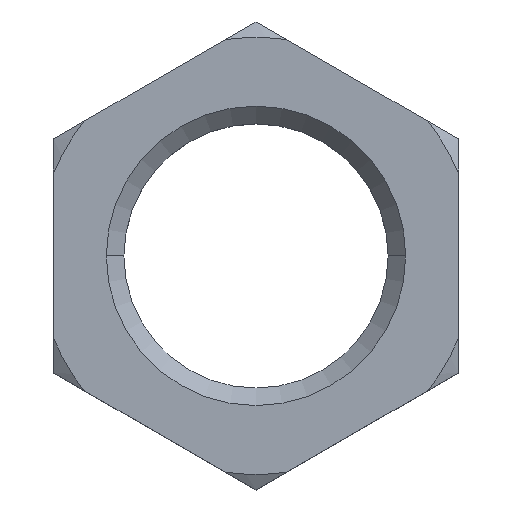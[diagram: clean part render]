
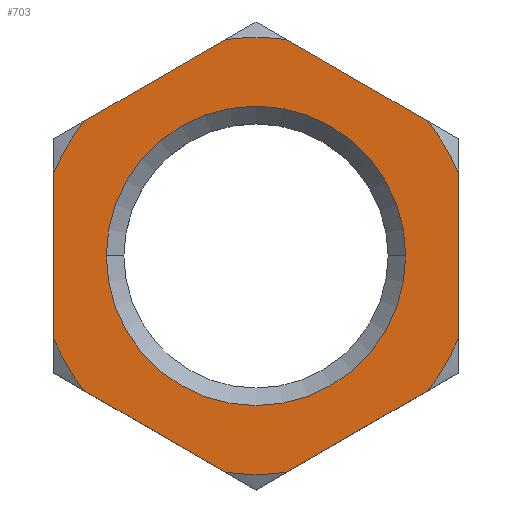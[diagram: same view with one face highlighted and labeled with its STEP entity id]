
A CAD part, top view. The second image highlights one B-rep face of the part: STEP entity #703.
In plain terms, the highlighted planar face has unit normal (0, 0, 1).
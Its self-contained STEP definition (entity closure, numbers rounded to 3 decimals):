
#16 = CARTESIAN_POINT ( 'NONE',  ( -23., 13.279, 6.95 ) ) ;
#19 = CIRCLE ( 'NONE', #454, 24.808 ) ;
#20 = VERTEX_POINT ( 'NONE', #335 ) ;
#30 = CARTESIAN_POINT ( 'NONE',  ( 3.448, 24.567, 6.95 ) ) ;
#31 = ORIENTED_EDGE ( 'NONE', *, *, #513, .F. ) ;
#39 = EDGE_CURVE ( 'NONE', #551, #654, #478, .T. ) ;
#50 = DIRECTION ( 'NONE',  ( -1., 0., 0. ) ) ;
#56 = CARTESIAN_POINT ( 'NONE',  ( 0., 0., 6.95 ) ) ;
#68 = CARTESIAN_POINT ( 'NONE',  ( 23., -9.297, 6.95 ) ) ;
#69 = CIRCLE ( 'NONE', #488, 24.808 ) ;
#71 = EDGE_CURVE ( 'NONE', #122, #20, #661, .T. ) ;
#72 = EDGE_CURVE ( 'NONE', #555, #519, #182, .T. ) ;
#75 = ORIENTED_EDGE ( 'NONE', *, *, #496, .F. ) ;
#85 = ORIENTED_EDGE ( 'NONE', *, *, #698, .T. ) ;
#102 = CARTESIAN_POINT ( 'NONE',  ( 23., 13.279, 6.95 ) ) ;
#104 = CARTESIAN_POINT ( 'NONE',  ( 0., 0., 6.95 ) ) ;
#111 = DIRECTION ( 'NONE',  ( 0., 0., -1. ) ) ;
#120 = VERTEX_POINT ( 'NONE', #278 ) ;
#122 = VERTEX_POINT ( 'NONE', #429 ) ;
#125 = DIRECTION ( 'NONE',  ( 0., 0., -1. ) ) ;
#141 = LINE ( 'NONE', #877, #608 ) ;
#153 = ORIENTED_EDGE ( 'NONE', *, *, #39, .F. ) ;
#155 = DIRECTION ( 'NONE',  ( 1., 0., 0. ) ) ;
#177 = CARTESIAN_POINT ( 'NONE',  ( -19.552, -15.27, 6.95 ) ) ;
#182 = CIRCLE ( 'NONE', #734, 17. ) ;
#184 = FACE_BOUND ( 'NONE', #285, .T. ) ;
#190 = VERTEX_POINT ( 'NONE', #638 ) ;
#194 = CARTESIAN_POINT ( 'NONE',  ( 0., 0., 6.95 ) ) ;
#197 = VERTEX_POINT ( 'NONE', #489 ) ;
#229 = ORIENTED_EDGE ( 'NONE', *, *, #834, .T. ) ;
#242 = DIRECTION ( 'NONE',  ( 0.866, 0.5, 0. ) ) ;
#244 = DIRECTION ( 'NONE',  ( 0., 0., -1. ) ) ;
#255 = DIRECTION ( 'NONE',  ( 0., 0., -1. ) ) ;
#257 = CARTESIAN_POINT ( 'NONE',  ( -17., 0., 6.95 ) ) ;
#258 = DIRECTION ( 'NONE',  ( -0.866, -0.5, 0. ) ) ;
#278 = CARTESIAN_POINT ( 'NONE',  ( 19.552, 15.27, 6.95 ) ) ;
#279 = CARTESIAN_POINT ( 'NONE',  ( 17., 0., 6.95 ) ) ;
#283 = VECTOR ( 'NONE', #258, 1000. ) ;
#285 = EDGE_LOOP ( 'NONE', ( #324, #289 ) ) ;
#289 = ORIENTED_EDGE ( 'NONE', *, *, #626, .T. ) ;
#301 = CIRCLE ( 'NONE', #580, 24.808 ) ;
#305 = VERTEX_POINT ( 'NONE', #177 ) ;
#309 = VECTOR ( 'NONE', #242, 1000. ) ;
#324 = ORIENTED_EDGE ( 'NONE', *, *, #72, .T. ) ;
#332 = CIRCLE ( 'NONE', #641, 17. ) ;
#334 = DIRECTION ( 'NONE',  ( -1., 0., 0. ) ) ;
#335 = CARTESIAN_POINT ( 'NONE',  ( -19.552, 15.27, 6.95 ) ) ;
#375 = PLANE ( 'NONE',  #822 ) ;
#402 = DIRECTION ( 'NONE',  ( 0., 0., -1. ) ) ;
#408 = DIRECTION ( 'NONE',  ( -1., 0., 0. ) ) ;
#410 = LINE ( 'NONE', #102, #662 ) ;
#426 = FACE_OUTER_BOUND ( 'NONE', #669, .T. ) ;
#428 = CARTESIAN_POINT ( 'NONE',  ( 23., 9.297, 6.95 ) ) ;
#429 = CARTESIAN_POINT ( 'NONE',  ( -3.448, 24.567, 6.95 ) ) ;
#434 = EDGE_CURVE ( 'NONE', #120, #559, #19, .T. ) ;
#441 = EDGE_CURVE ( 'NONE', #197, #20, #782, .T. ) ;
#450 = ORIENTED_EDGE ( 'NONE', *, *, #434, .F. ) ;
#454 = AXIS2_PLACEMENT_3D ( 'NONE', #599, #244, #745 ) ;
#457 = VERTEX_POINT ( 'NONE', #30 ) ;
#466 = DIRECTION ( 'NONE',  ( -0.866, 0.5, 0. ) ) ;
#472 = AXIS2_PLACEMENT_3D ( 'NONE', #104, #402, #773 ) ;
#474 = DIRECTION ( 'NONE',  ( -1., 0., 0. ) ) ;
#475 = DIRECTION ( 'NONE',  ( 0., 0., -1. ) ) ;
#478 = CIRCLE ( 'NONE', #804, 24.808 ) ;
#488 = AXIS2_PLACEMENT_3D ( 'NONE', #553, #475, #50 ) ;
#489 = CARTESIAN_POINT ( 'NONE',  ( -23., 9.297, 6.95 ) ) ;
#491 = DIRECTION ( 'NONE',  ( 0., 0., -1. ) ) ;
#496 = EDGE_CURVE ( 'NONE', #575, #651, #69, .T. ) ;
#501 = CIRCLE ( 'NONE', #886, 24.808 ) ;
#513 = EDGE_CURVE ( 'NONE', #305, #190, #301, .T. ) ;
#514 = DIRECTION ( 'NONE',  ( 0., 1., 0. ) ) ;
#516 = ORIENTED_EDGE ( 'NONE', *, *, #71, .T. ) ;
#517 = DIRECTION ( 'NONE',  ( 0., 0., 1. ) ) ;
#519 = VERTEX_POINT ( 'NONE', #257 ) ;
#523 = ORIENTED_EDGE ( 'NONE', *, *, #775, .T. ) ;
#524 = DIRECTION ( 'NONE',  ( 0., -1., 0. ) ) ;
#525 = ORIENTED_EDGE ( 'NONE', *, *, #820, .T. ) ;
#527 = CARTESIAN_POINT ( 'NONE',  ( 0., -26.558, 6.95 ) ) ;
#530 = CARTESIAN_POINT ( 'NONE',  ( -23., -13.279, 6.95 ) ) ;
#547 = ORIENTED_EDGE ( 'NONE', *, *, #441, .F. ) ;
#551 = VERTEX_POINT ( 'NONE', #68 ) ;
#553 = CARTESIAN_POINT ( 'NONE',  ( 0., 0., 6.95 ) ) ;
#555 = VERTEX_POINT ( 'NONE', #279 ) ;
#559 = VERTEX_POINT ( 'NONE', #428 ) ;
#566 = CARTESIAN_POINT ( 'NONE',  ( 3.448, -24.567, 6.95 ) ) ;
#575 = VERTEX_POINT ( 'NONE', #566 ) ;
#580 = AXIS2_PLACEMENT_3D ( 'NONE', #762, #125, #334 ) ;
#588 = EDGE_CURVE ( 'NONE', #122, #457, #501, .T. ) ;
#599 = CARTESIAN_POINT ( 'NONE',  ( 0., 0., 6.95 ) ) ;
#608 = VECTOR ( 'NONE', #514, 1000. ) ;
#618 = LINE ( 'NONE', #530, #632 ) ;
#626 = EDGE_CURVE ( 'NONE', #519, #555, #332, .T. ) ;
#632 = VECTOR ( 'NONE', #816, 1000. ) ;
#633 = LINE ( 'NONE', #16, #883 ) ;
#636 = CARTESIAN_POINT ( 'NONE',  ( 0., 0., 6.95 ) ) ;
#638 = CARTESIAN_POINT ( 'NONE',  ( -23., -9.297, 6.95 ) ) ;
#641 = AXIS2_PLACEMENT_3D ( 'NONE', #56, #771, #846 ) ;
#651 = VERTEX_POINT ( 'NONE', #908 ) ;
#654 = VERTEX_POINT ( 'NONE', #686 ) ;
#661 = LINE ( 'NONE', #910, #283 ) ;
#662 = VECTOR ( 'NONE', #466, 1000. ) ;
#669 = EDGE_LOOP ( 'NONE', ( #153, #523, #450, #881, #723, #516, #547, #85, #31, #525, #75, #229 ) ) ;
#684 = CARTESIAN_POINT ( 'NONE',  ( 0., 0., 6.95 ) ) ;
#686 = CARTESIAN_POINT ( 'NONE',  ( 19.552, -15.27, 6.95 ) ) ;
#698 = EDGE_CURVE ( 'NONE', #197, #190, #633, .T. ) ;
#703 = ADVANCED_FACE ( 'NONE', ( #184, #426 ), #375, .T. ) ;
#723 = ORIENTED_EDGE ( 'NONE', *, *, #588, .F. ) ;
#734 = AXIS2_PLACEMENT_3D ( 'NONE', #684, #255, #759 ) ;
#745 = DIRECTION ( 'NONE',  ( -1., 0., 0. ) ) ;
#759 = DIRECTION ( 'NONE',  ( 1., 0., 0. ) ) ;
#762 = CARTESIAN_POINT ( 'NONE',  ( 0., 0., 6.95 ) ) ;
#771 = DIRECTION ( 'NONE',  ( 0., 0., -1. ) ) ;
#773 = DIRECTION ( 'NONE',  ( -1., 0., 0. ) ) ;
#775 = EDGE_CURVE ( 'NONE', #551, #559, #141, .T. ) ;
#782 = CIRCLE ( 'NONE', #472, 24.808 ) ;
#804 = AXIS2_PLACEMENT_3D ( 'NONE', #194, #111, #474 ) ;
#812 = CARTESIAN_POINT ( 'NONE',  ( 0., 0., 6.95 ) ) ;
#816 = DIRECTION ( 'NONE',  ( 0.866, -0.5, 0. ) ) ;
#820 = EDGE_CURVE ( 'NONE', #305, #651, #618, .T. ) ;
#822 = AXIS2_PLACEMENT_3D ( 'NONE', #812, #517, #155 ) ;
#826 = EDGE_CURVE ( 'NONE', #120, #457, #410, .T. ) ;
#834 = EDGE_CURVE ( 'NONE', #575, #654, #839, .T. ) ;
#839 = LINE ( 'NONE', #527, #309 ) ;
#846 = DIRECTION ( 'NONE',  ( 1., 0., 0. ) ) ;
#877 = CARTESIAN_POINT ( 'NONE',  ( 23., -13.279, 6.95 ) ) ;
#881 = ORIENTED_EDGE ( 'NONE', *, *, #826, .T. ) ;
#883 = VECTOR ( 'NONE', #524, 1000. ) ;
#886 = AXIS2_PLACEMENT_3D ( 'NONE', #636, #491, #408 ) ;
#908 = CARTESIAN_POINT ( 'NONE',  ( -3.448, -24.567, 6.95 ) ) ;
#910 = CARTESIAN_POINT ( 'NONE',  ( 0., 26.558, 6.95 ) ) ;
